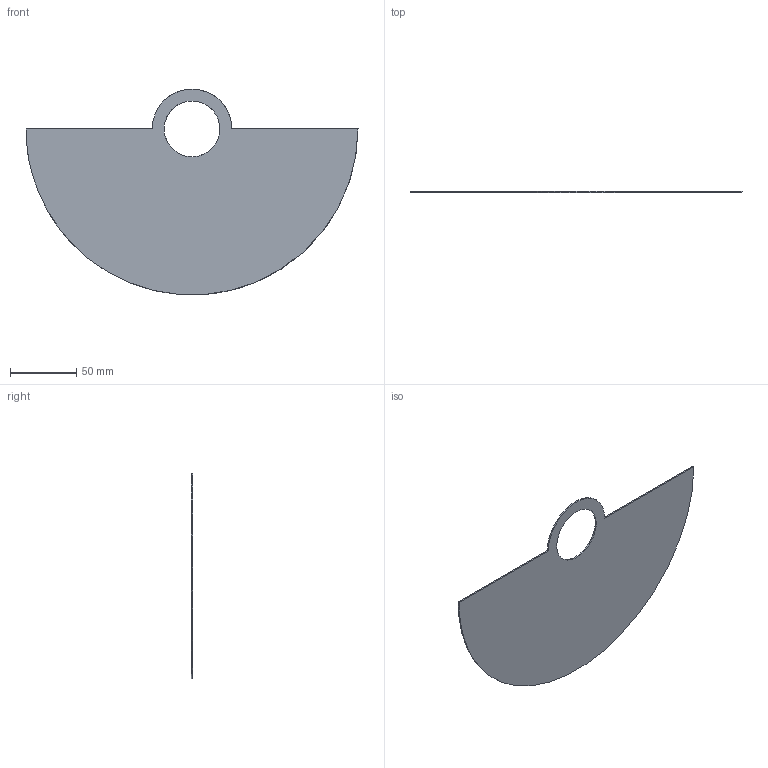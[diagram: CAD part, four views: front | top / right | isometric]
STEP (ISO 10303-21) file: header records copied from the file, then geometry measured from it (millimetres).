
FILE_DESCRIPTION (( 'STEP AP214' ), '1' );
FILE_NAME ('1088-25.STEP', '2026-06-09T10:40:36', ( '' ), ( '' ), 'SwSTEP 2.0', 'SolidWorks 2023', '' );
FILE_SCHEMA (( 'AUTOMOTIVE_DESIGN' ));
Length unit declared in the file: millimetre
Products named in the file (1): 1088-25
Bounding box: 250 x 1 x 154.93 mm (x, y, z)
Volume: 24571.9 mm3; surface area: 49952.8 mm2
Topology: 1 solids, 1 shells, 9 faces, 21 edges, 14 vertices
Faces by surface type: bspline 9
Entity records: 419 total; most frequent: CARTESIAN_POINT 262, ORIENTED_EDGE 42, EDGE_CURVE 21, B_SPLINE_CURVE_WITH_KNOTS 15, VERTEX_POINT 14, EDGE_LOOP 11, FACE_OUTER_BOUND 9, ADVANCED_FACE 9
